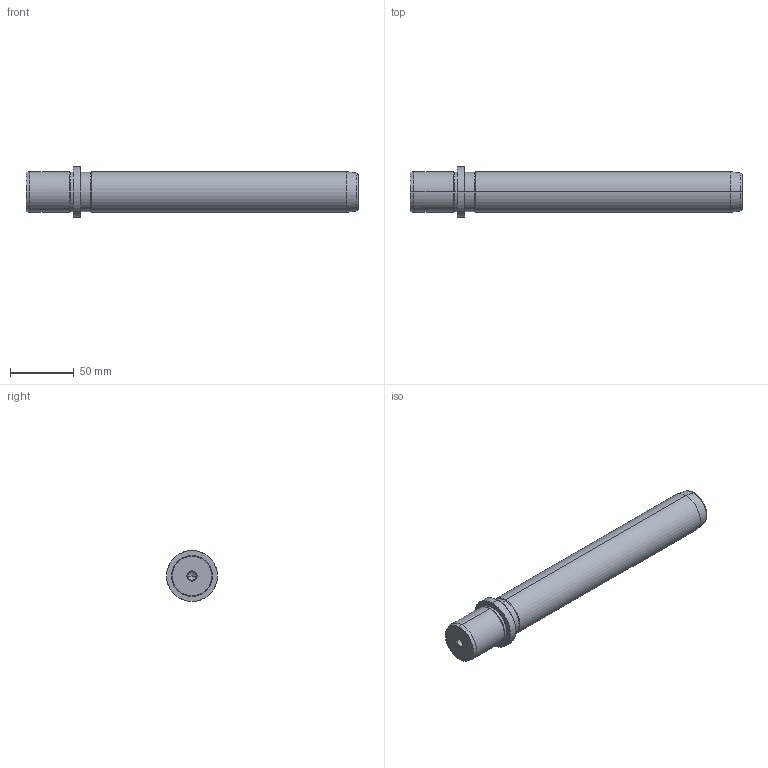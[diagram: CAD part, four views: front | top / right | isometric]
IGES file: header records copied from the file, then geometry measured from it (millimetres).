
Start section: START RECORD GO HERE.
Global section: file name: 718-32x224.igs; native system: DASSAULT SYSTEMES CATIA V5 R20 - www.3ds.com; preprocessor: CATIA Version 5 Release 20 ; author: Utente; organization: NB04-ASUS; date: 20210102.140303; units: millimetre
Bounding box: 261 x 40 x 40 mm (x, y, z)
Surface area: 29778.5 mm2 (no closed solid volume)
Topology: 0 solids, 0 shells, 36 faces, 196 edges, 192 vertices
Faces by surface type: revolution 32, plane 4
